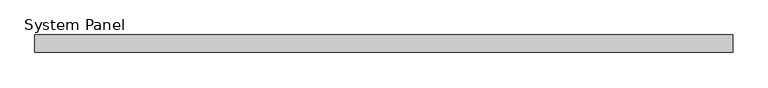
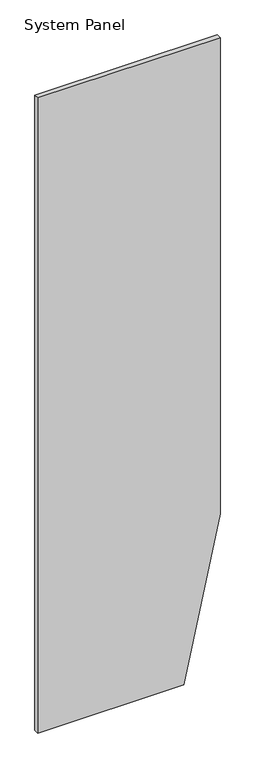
"""IFC4 building model written with IfcOpenShell, lengths in millimetres: plate geometry, System Panel : Purline 25mm Vertical - Plain RHEA - PUR."""

from ifc_helpers import new_model, si_unit, frame, origin, place, context, project, spatial, polyline, outline, extrude, source, transform, mapped, element, save


def system_panel_9cca09ca(model_context):
    return source(origin(), model_context, "Body", "SweptSolid", [
        extrude(outline(polyline([(0.0, -500.0), (0.0, 300.0), (919.9926059, 500.0), (3679.9704237, 500.0), (3679.9704237, -500.0), (0.0, -500.0)])), frame((0.0, -25.0, 0.0), z_axis=(0.0, 1.0, 0.0), x_axis=(0.0, 0.0, 1.0)), (0.0, 0.0, 1.0), 25.0),
    ])


if __name__ == "__main__":
    model = new_model("IFC4")
    model_context = context("Model", 3, world=origin())
    ifc_project = project(units=[si_unit("LENGTHUNIT", "METRE", prefix="MILLI")], contexts=[model_context])
    site = spatial("IfcSite", under=ifc_project)
    building = spatial("IfcBuilding", under=site)
    placement = place(None, origin())
    system_panel_shape = system_panel_9cca09ca(model_context)
    element("IfcPlate", 1, ObjectType="System Panel : Purline 25mm Vertical - Plain RHEA - PUR", at=placement, inside=building, context=model_context, shape_type="MappedRepresentation", body=[
        mapped(system_panel_shape, transform((0.0, 0.0, 0.0), x_axis=(1.0, 0.0, 0.0), y_axis=(0.0, 1.0, 0.0), z_axis=(0.0, 0.0, 1.0))),
    ])
    save(model, "model.ifc")
